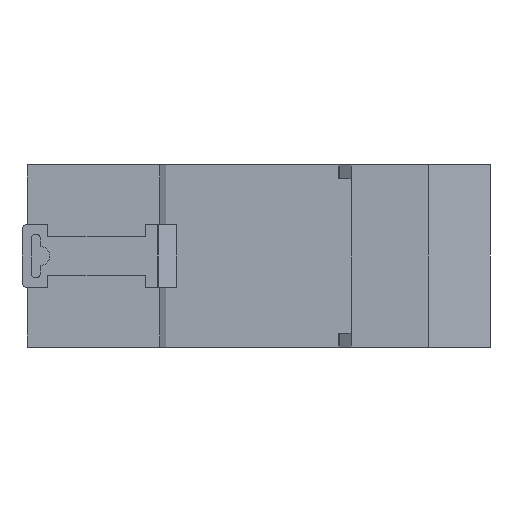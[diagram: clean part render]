
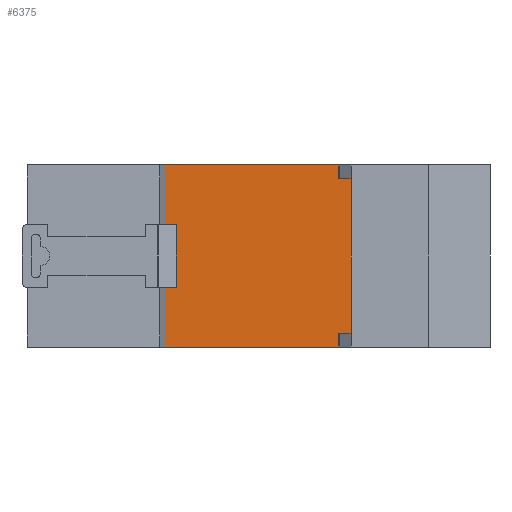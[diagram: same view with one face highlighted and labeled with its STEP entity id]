
A CAD part, left-side view. The second image highlights one B-rep face of the part: STEP entity #6375.
In plain terms, the highlighted planar face has unit normal (-1, 0, 0).
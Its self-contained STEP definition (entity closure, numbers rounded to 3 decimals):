
#910 = AXIS2_PLACEMENT_3D ( 'NONE', #13187, #3801, #2695 ) ;
#912 = FACE_OUTER_BOUND ( 'NONE', #6555, .T. ) ;
#1040 = ORIENTED_EDGE ( 'NONE', *, *, #9141, .F. ) ;
#1394 = PLANE ( 'NONE',  #910 ) ;
#1608 = VECTOR ( 'NONE', #10960, 1000. ) ;
#2205 = ORIENTED_EDGE ( 'NONE', *, *, #4600, .T. ) ;
#2328 = VECTOR ( 'NONE', #7958, 1000. ) ;
#2378 = VERTEX_POINT ( 'NONE', #5054 ) ;
#2695 = DIRECTION ( 'NONE',  ( 0., 1., 0. ) ) ;
#3801 = DIRECTION ( 'NONE',  ( 1., 0., 0. ) ) ;
#4600 = EDGE_CURVE ( 'NONE', #12318, #13260, #10548, .T. ) ;
#5054 = CARTESIAN_POINT ( 'NONE',  ( -60., -40.25, 35.4 ) ) ;
#5704 = VECTOR ( 'NONE', #6998, 1000. ) ;
#6375 = ADVANCED_FACE ( 'NONE', ( #912 ), #1394, .F. ) ;
#6443 = ORIENTED_EDGE ( 'NONE', *, *, #11340, .F. ) ;
#6555 = EDGE_LOOP ( 'NONE', ( #2205, #1040, #6443, #10335 ) ) ;
#6998 = DIRECTION ( 'NONE',  ( 0., 0., -1. ) ) ;
#7009 = CARTESIAN_POINT ( 'NONE',  ( -60., -4.25, 35.4 ) ) ;
#7958 = DIRECTION ( 'NONE',  ( 0., 0., -1. ) ) ;
#8537 = DIRECTION ( 'NONE',  ( 0., -1., 0. ) ) ;
#8544 = LINE ( 'NONE', #10215, #5704 ) ;
#9112 = CARTESIAN_POINT ( 'NONE',  ( -60., -40.25, 35.4 ) ) ;
#9141 = EDGE_CURVE ( 'NONE', #2378, #13260, #13157, .T. ) ;
#9561 = CARTESIAN_POINT ( 'NONE',  ( -60., -4.25, 0. ) ) ;
#9803 = EDGE_CURVE ( 'NONE', #11603, #12318, #8544, .T. ) ;
#10215 = CARTESIAN_POINT ( 'NONE',  ( -60., -4.25, 35.4 ) ) ;
#10335 = ORIENTED_EDGE ( 'NONE', *, *, #9803, .T. ) ;
#10501 = CARTESIAN_POINT ( 'NONE',  ( -60., -40.25, 0. ) ) ;
#10517 = VECTOR ( 'NONE', #8537, 1000. ) ;
#10548 = LINE ( 'NONE', #9561, #10517 ) ;
#10791 = CARTESIAN_POINT ( 'NONE',  ( -60., -4.25, 0. ) ) ;
#10960 = DIRECTION ( 'NONE',  ( 0., -1., 0. ) ) ;
#11340 = EDGE_CURVE ( 'NONE', #11603, #2378, #12461, .T. ) ;
#11603 = VERTEX_POINT ( 'NONE', #7009 ) ;
#11844 = CARTESIAN_POINT ( 'NONE',  ( -60., -4.25, 35.4 ) ) ;
#12318 = VERTEX_POINT ( 'NONE', #10791 ) ;
#12461 = LINE ( 'NONE', #11844, #1608 ) ;
#13157 = LINE ( 'NONE', #9112, #2328 ) ;
#13187 = CARTESIAN_POINT ( 'NONE',  ( -60., -4.25, 35.4 ) ) ;
#13260 = VERTEX_POINT ( 'NONE', #10501 ) ;
